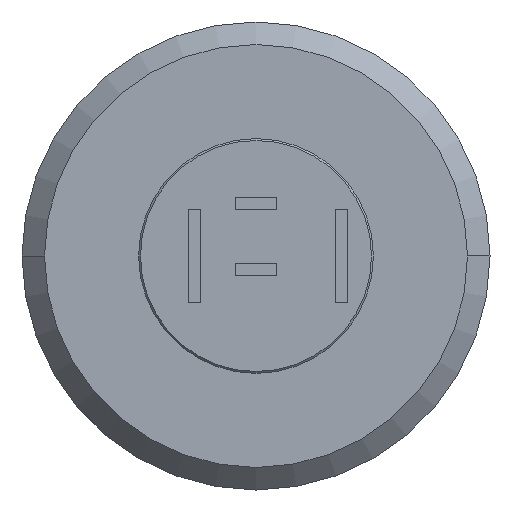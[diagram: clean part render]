
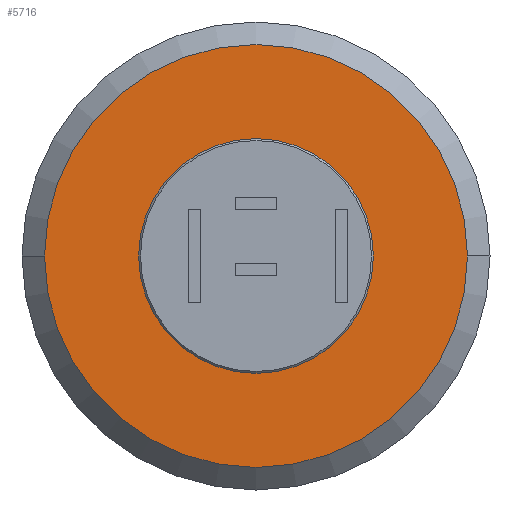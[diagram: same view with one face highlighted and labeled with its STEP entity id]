
A CAD part, left-side view. The second image highlights one B-rep face of the part: STEP entity #5716.
In plain terms, the highlighted planar face has unit normal (-1, 0, 0).
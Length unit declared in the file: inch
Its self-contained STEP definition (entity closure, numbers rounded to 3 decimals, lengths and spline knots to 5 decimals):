
#72 = DIRECTION ( 'NONE',  ( 0., 0., -1. ) ) ;
#624 = EDGE_LOOP ( 'NONE', ( #1478, #3992 ) ) ;
#632 = PLANE ( 'NONE',  #5267 ) ;
#730 = AXIS2_PLACEMENT_3D ( 'NONE', #6491, #2466, #7176 ) ;
#1160 = CARTESIAN_POINT ( 'NONE',  ( 0., -0.563, 0. ) ) ;
#1310 = DIRECTION ( 'NONE',  ( 0., 0., -1. ) ) ;
#1478 = ORIENTED_EDGE ( 'NONE', *, *, #3504, .F. ) ;
#1959 = DIRECTION ( 'NONE',  ( -1., 0., 0. ) ) ;
#2464 = AXIS2_PLACEMENT_3D ( 'NONE', #8130, #4120, #72 ) ;
#2466 = DIRECTION ( 'NONE',  ( 1., 0., 0. ) ) ;
#2611 = DIRECTION ( 'NONE',  ( -1., 0., 0. ) ) ;
#2655 = VERTEX_POINT ( 'NONE', #8085 ) ;
#3005 = CIRCLE ( 'NONE', #730, 0.563 ) ;
#3079 = CARTESIAN_POINT ( 'NONE',  ( 0., 0.3125, 0. ) ) ;
#3080 = ORIENTED_EDGE ( 'NONE', *, *, #6659, .F. ) ;
#3322 = CARTESIAN_POINT ( 'NONE',  ( 0., 0.623, 0. ) ) ;
#3504 = EDGE_CURVE ( 'NONE', #6165, #5989, #8706, .T. ) ;
#3992 = ORIENTED_EDGE ( 'NONE', *, *, #4228, .F. ) ;
#4075 = FACE_OUTER_BOUND ( 'NONE', #6408, .T. ) ;
#4120 = DIRECTION ( 'NONE',  ( 1., 0., 0. ) ) ;
#4165 = AXIS2_PLACEMENT_3D ( 'NONE', #5976, #1959, #6657 ) ;
#4228 = EDGE_CURVE ( 'NONE', #5989, #6165, #4713, .T. ) ;
#4613 = VERTEX_POINT ( 'NONE', #1160 ) ;
#4708 = ORIENTED_EDGE ( 'NONE', *, *, #7890, .F. ) ;
#4713 = CIRCLE ( 'NONE', #4165, 0.3125 ) ;
#5267 = AXIS2_PLACEMENT_3D ( 'NONE', #3322, #5333, #1310 ) ;
#5333 = DIRECTION ( 'NONE',  ( 1., 0., 0. ) ) ;
#5716 = ADVANCED_FACE ( 'NONE', ( #4075, #7835 ), #632, .F. ) ;
#5976 = CARTESIAN_POINT ( 'NONE',  ( 0., 0., 0. ) ) ;
#5989 = VERTEX_POINT ( 'NONE', #6986 ) ;
#6165 = VERTEX_POINT ( 'NONE', #3079 ) ;
#6384 = AXIS2_PLACEMENT_3D ( 'NONE', #6629, #2611, #7300 ) ;
#6408 = EDGE_LOOP ( 'NONE', ( #4708, #3080 ) ) ;
#6491 = CARTESIAN_POINT ( 'NONE',  ( 0., 0., 0. ) ) ;
#6629 = CARTESIAN_POINT ( 'NONE',  ( 0., 0., 0. ) ) ;
#6657 = DIRECTION ( 'NONE',  ( 0., 0., -1. ) ) ;
#6659 = EDGE_CURVE ( 'NONE', #4613, #2655, #3005, .T. ) ;
#6806 = CIRCLE ( 'NONE', #2464, 0.563 ) ;
#6986 = CARTESIAN_POINT ( 'NONE',  ( 0., -0.3125, 0. ) ) ;
#7176 = DIRECTION ( 'NONE',  ( 0., 0., -1. ) ) ;
#7300 = DIRECTION ( 'NONE',  ( 0., 0., -1. ) ) ;
#7835 = FACE_BOUND ( 'NONE', #624, .T. ) ;
#7890 = EDGE_CURVE ( 'NONE', #2655, #4613, #6806, .T. ) ;
#8085 = CARTESIAN_POINT ( 'NONE',  ( 0., 0.563, 0. ) ) ;
#8130 = CARTESIAN_POINT ( 'NONE',  ( 0., 0., 0. ) ) ;
#8706 = CIRCLE ( 'NONE', #6384, 0.3125 ) ;
